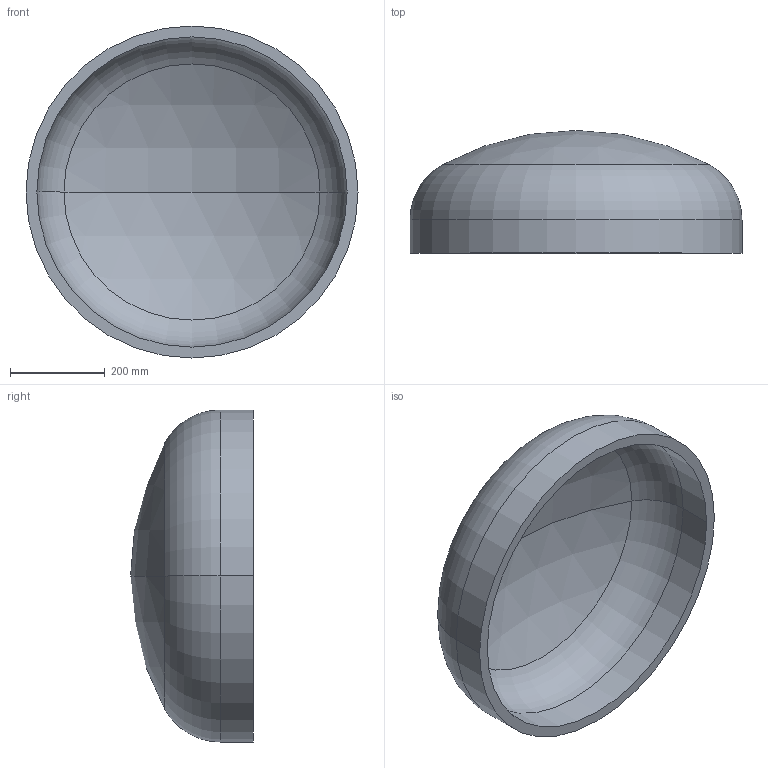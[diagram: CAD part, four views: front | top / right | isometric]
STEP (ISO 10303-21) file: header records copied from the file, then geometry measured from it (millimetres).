
FILE_DESCRIPTION (( 'STEP AP203' ), '1' );
FILE_NAME ('DIN 28013 Korbbogenform_-_Boden DIN 28013 - 700 x 70 - I - s=23.step', '2016-07-01T08:05:36', ( '' ), ( '' ), 'SwSTEP 2.0', 'SolidWorks 2013', '' );
FILE_SCHEMA (( 'CONFIG_CONTROL_DESIGN' ));
Length unit declared in the file: millimetre
Products named in the file (1): DIN 28013 Korbbogenform_-_Boden DIN 28013 - 700 x 70 - I - s=23
Bounding box: 700 x 258.78 x 700 mm (x, y, z)
Volume: 15217741.4 mm3; surface area: 1373307.2 mm2
Topology: 1 solids, 1 shells, 13 faces, 24 edges, 14 vertices
Faces by surface type: torus 4, cylinder 4, sphere 4, plane 1
Entity records: 407 total; most frequent: DIRECTION 72, CARTESIAN_POINT 52, ORIENTED_EDGE 48, AXIS2_PLACEMENT_3D 34, EDGE_CURVE 24, CIRCLE 20, EDGE_LOOP 14, VERTEX_POINT 14
